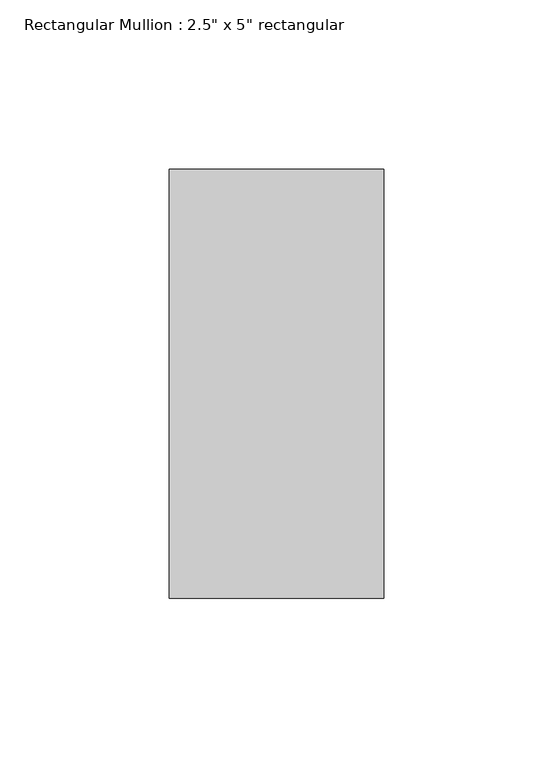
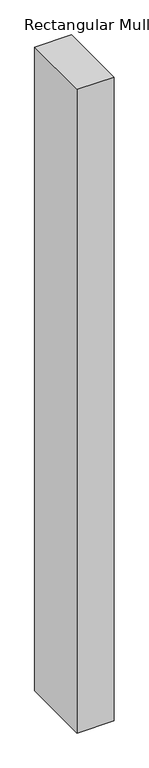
"""IFC4 building model written with IfcOpenShell, lengths in millimetres: member geometry."""

from ifc_helpers import new_model, si_unit, frame, origin, place, context, project, spatial, polyline, outline, extrude, source, transform, mapped, element, save


def member_2dca4891(model_context):
    return source(origin(), model_context, "Body", "SweptSolid", [
        extrude(outline(polyline([(0.0, 50.8), (0.0, -76.2), (-63.5, -76.2), (-63.5, 50.8), (0.0, 50.8)])), frame((0.0, 0.0, -1175.8083333), z_axis=(0.0, 0.0, 1.0), x_axis=(1.0, 0.0, 0.0)), (0.0, 0.0, 1.0), 1175.8083333),
    ])


if __name__ == "__main__":
    model = new_model("IFC4")
    model_context = context("Model", 3, world=origin())
    ifc_project = project(units=[si_unit("LENGTHUNIT", "METRE", prefix="MILLI")], contexts=[model_context])
    site = spatial("IfcSite", under=ifc_project)
    building = spatial("IfcBuilding", under=site)
    placement = place(None, origin())
    member_shape = member_2dca4891(model_context)
    element("IfcMember", 1, ObjectType="Rectangular Mullion : 2.5\" x 5\" rectangular", at=placement, inside=building, context=model_context, shape_type="MappedRepresentation", body=[
        mapped(member_shape, transform((0.0, 0.0, 0.0), x_axis=(1.0, 0.0, 0.0), y_axis=(0.0, 1.0, 0.0), z_axis=(0.0, 0.0, 1.0))),
    ])
    save(model, "model.ifc")
